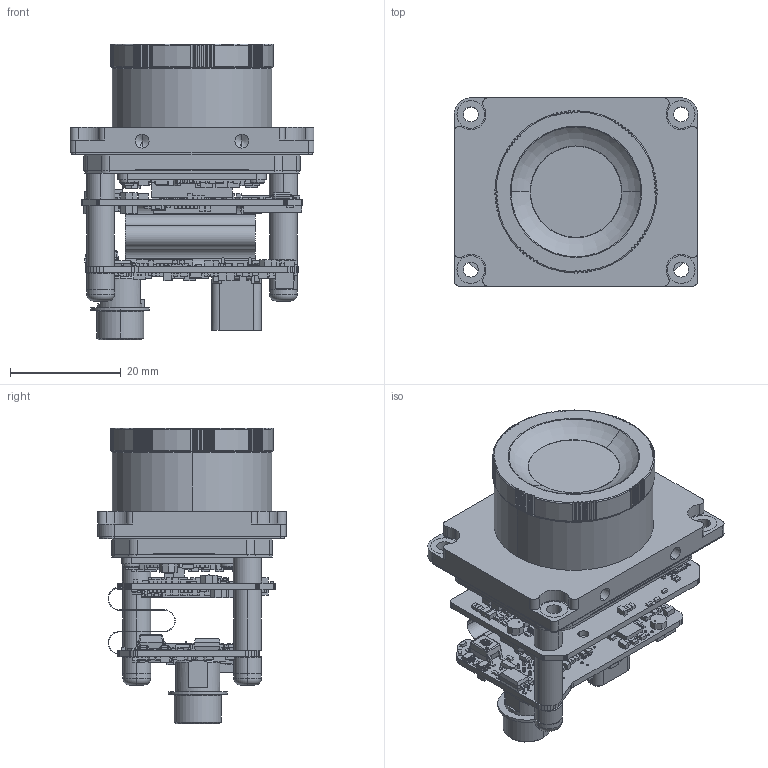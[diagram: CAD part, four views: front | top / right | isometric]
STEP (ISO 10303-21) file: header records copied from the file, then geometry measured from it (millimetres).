
FILE_DESCRIPTION (( 'STEP AP203' ), '1' );
FILE_NAME ('volume-ueye-se-usb3.1-gen1-boardlevel-sboard-cmount.STEP', '2021-04-28T07:37:53', ( '' ), ( '' ), 'SwSTEP 2.0', 'SolidWorks 2020', '' );
FILE_SCHEMA (( 'CONFIG_CONTROL_DESIGN' ));
Length unit declared in the file: millimetre
Products named in the file (1): volume-ueye-se-usb3.1-gen1-boardlevel-sboard-cmount
Bounding box: 44 x 34 x 53.36 mm (x, y, z)
Volume: 18782.2 mm3; surface area: 27224.3 mm2
Topology: 673 solids, 673 shells, 8988 faces, 21359 edges, 13780 vertices
Faces by surface type: plane 6907, cylinder 1242, bspline 476, torus 150, cone 130, sphere 83
Entity records: 261653 total; most frequent: CARTESIAN_POINT 56990, ORIENTED_EDGE 42496, DIRECTION 39757, EDGE_CURVE 21248, VECTOR 17217, LINE 17217, VERTEX_POINT 13769, AXIS2_PLACEMENT_3D 11270
